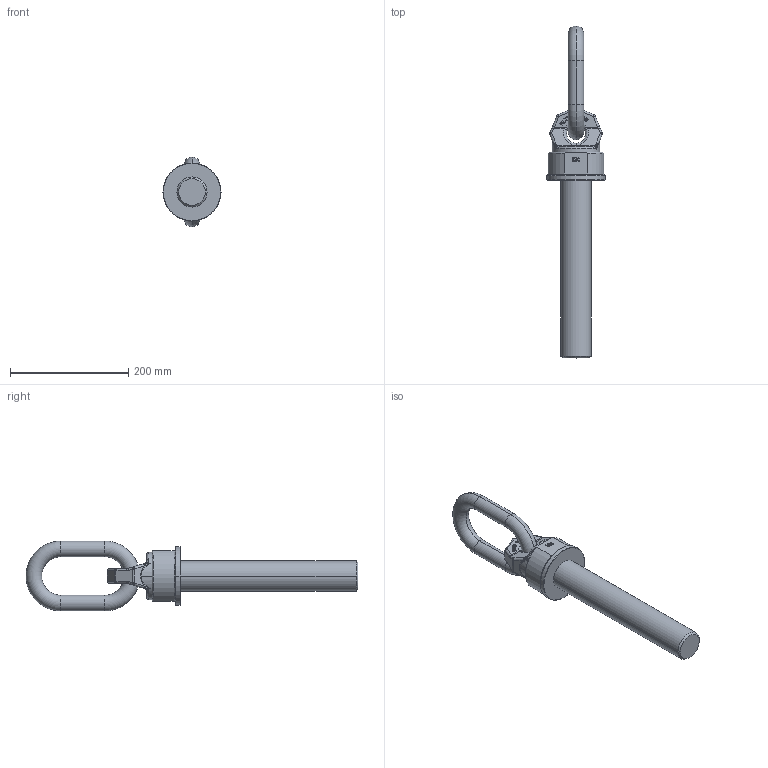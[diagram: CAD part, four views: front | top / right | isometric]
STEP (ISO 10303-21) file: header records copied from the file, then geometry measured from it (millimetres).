
FILE_DESCRIPTION((''),'2;1');
FILE_NAME('001-M34116-P-10_ASM','2019-12-10T',('Roland.Jakubetz'),(''),'PRO/ENGINEER BY PARAMETRIC TECHNOLOGY CORPORATION, 2011490','PRO/ENGINEER BY PARAMETRIC TECHNOLOGY CORPORATION, 2011490','');
FILE_SCHEMA(('CONFIG_CONTROL_DESIGN'));
Length unit declared in the file: millimetre
Products named in the file (4): 001-M33245-P-10_AF1; 001-M33243-P-10; 001-M31050-P-03; 001-M34116-P-10_ASM
Assembly tree (3 placements, depth 2):
  001-M34116-P-10_ASM
    001-M33245-P-10_AF1
    001-M33243-P-10
    001-M31050-P-03
Bounding box: 98 x 560.5 x 118 mm (x, y, z)
Volume: 1331803.4 mm3; surface area: 136393.5 mm2
Topology: 3 solids, 3 shells, 441 faces, 1184 edges, 758 vertices
Faces by surface type: plane 309, cylinder 58, bspline 56, torus 10, cone 8
Entity records: 15443 total; most frequent: CARTESIAN_POINT 4709, ORIENTED_EDGE 2360, DIRECTION 1972, EDGE_CURVE 1180, VECTOR 912, LINE 912, VERTEX_POINT 758, AXIS2_PLACEMENT_3D 530
